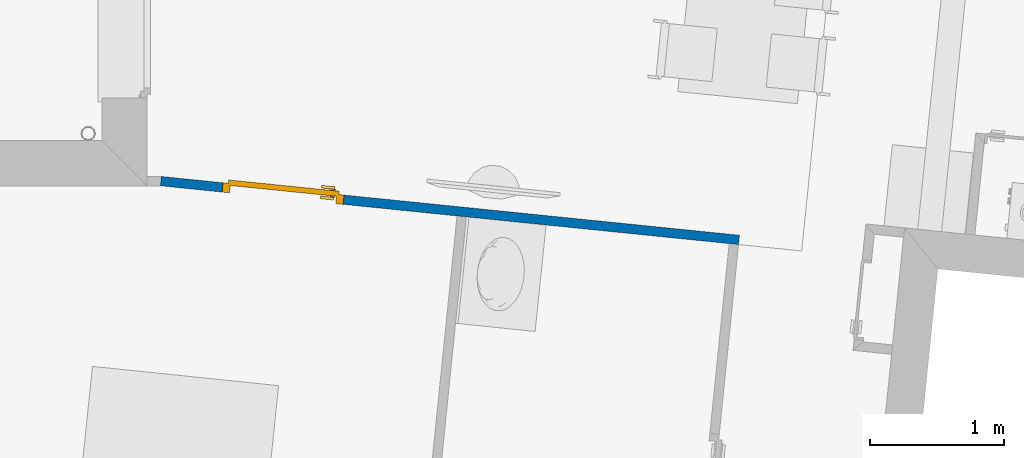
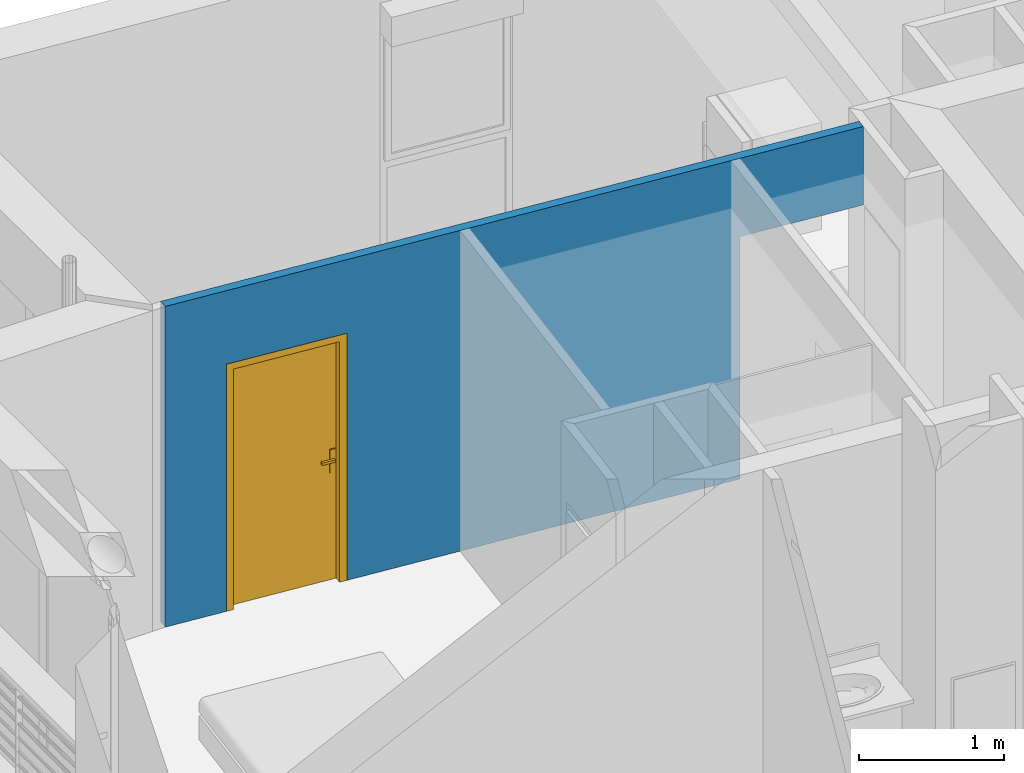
# One storey, part 63 of 164: 1 door, 1 wall, 2 openings.
"""IFC2X3 building model written with IfcOpenShell, lengths in millimetres."""

from ifc_helpers import new_model, entity, si_unit, converted_unit, derived_unit, money_unit, direction, frame, origin_with_axes, origin_2d_with_axis, place, context, subcontext, project, spatial, polyline, rectangle, outline, extrude, faceted_brep, source, transform, mapped, material, layer, layer_set, layer_usage, type_object, element, fill, save


model = new_model("IFC2X3")

# Units and contexts
model_context = context("Model", 3, precision=0.01, world=origin_with_axes(), true_north=direction((0.0, 1.0)))
body_context = subcontext(model_context, "Body", "Model", "MODEL_VIEW")
ifc_project = project(units=[si_unit("LENGTHUNIT", "METRE", prefix="MILLI"), si_unit("AREAUNIT", "SQUARE_METRE"), si_unit("VOLUMEUNIT", "CUBIC_METRE"), converted_unit("PLANEANGLEUNIT", "DEGREE", entity("IfcPlaneAngleMeasure", 0.0174532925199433), si_unit("PLANEANGLEUNIT", "RADIAN"), dimensions=[0, 0, 0, 0, 0, 0, 0]), money_unit("USD"), converted_unit("TIMEUNIT", "Year", entity("IfcTimeMeasure", 31557600.0), si_unit("TIMEUNIT", "SECOND"), dimensions=[0, 0, 1, 0, 0, 0, 0]), si_unit("MASSUNIT", "GRAM", prefix="KILO"), si_unit("THERMODYNAMICTEMPERATUREUNIT", "DEGREE_CELSIUS"), si_unit("LUMINOUSINTENSITYUNIT", "LUMEN"), si_unit("ENERGYUNIT", "JOULE", prefix="MEGA"), derived_unit("THERMALCONDUCTANCEUNIT", [(si_unit("POWERUNIT", "WATT"), 1), (si_unit("LENGTHUNIT", "METRE"), -1), (si_unit("THERMODYNAMICTEMPERATUREUNIT", "KELVIN"), -1)]), derived_unit("SPECIFICHEATCAPACITYUNIT", [(si_unit("ENERGYUNIT", "JOULE"), 1), (si_unit("MASSUNIT", "GRAM", prefix="KILO"), -1), (si_unit("THERMODYNAMICTEMPERATUREUNIT", "KELVIN"), -1)]), derived_unit("MASSDENSITYUNIT", [(si_unit("MASSUNIT", "GRAM", prefix="KILO"), 1), (si_unit("VOLUMEUNIT", "CUBIC_METRE"), -1)])], contexts=[model_context])

# Site, building, storey
site_placement = place(None, origin_with_axes())
site = spatial("IfcSite", under=ifc_project, at=site_placement, Name="Site", CompositionType="ELEMENT")
building_placement = place(site_placement, origin_with_axes())
building = spatial("IfcBuilding", under=site, at=building_placement, Name="Bâtiment", CompositionType="ELEMENT")
storey_placement = place(building_placement, frame((0.0, 0.0, 5750.0), z_axis=(0.0, 0.0, 1.0), x_axis=(1.0, 0.0, 0.0)))
storey = spatial("IfcBuildingStorey", under=building, at=storey_placement, Name="Etage1", CompositionType="ELEMENT", Elevation=5750.0)

# Wall, openings, door
ifc_material = material(Name="Hachure solide 268963992")
ifc_layer = layer(ifc_material, 70.0, ventilated="UNKNOWN")
ifc_layer_set = layer_set([ifc_layer], Name="Cloison 70 0826278243")
ifc_layer_usage = layer_usage(ifc_layer_set, "AXIS2", "NEGATIVE", 70.0)
wall_type = type_object("IfcWallType", Name="Cloison 70 0826278243 70", PredefinedType="NOTDEFINED")
wall_placement = place(storey_placement, frame((2218574.233344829, -607507.3879007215, 0.0), z_axis=(0.0, 0.0, 1.0), x_axis=(0.9948759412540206, -0.101103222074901, 0.0)))
wall = element("IfcWallStandardCase", 1, at=wall_placement, inside=storey, type_object=wall_type, material=ifc_layer_usage, Name="Mur-149", context=body_context, shape_type="SweptSolid", body=[
    extrude(outline(polyline([(1.13686837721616e-10, 0.0), (5278.749094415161, 0.0), (5278.756607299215, 69.99999999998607), (-3.547702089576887, 69.99999999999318), (1.13686837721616e-10, 0.0)])), origin_with_axes(), (0.0, 0.0, 1.0), 2700.0),
])
opening_1_placement = place(wall_placement, frame((917.6624685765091, 0.0, 0.0), z_axis=(0.0, 0.0, 1.0), x_axis=(1.0, 0.0, 0.0)))
opening_1 = element("IfcOpeningElement", 2, at=opening_1_placement, cuts=wall, Name="Por-284", context=body_context, shape_type="SweptSolid", body=[
    extrude(rectangle(XDim=910.0, YDim=2080.0, at=origin_2d_with_axis()), frame((0.0, -70.00000000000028, 1040.0), z_axis=(0.0, -1.0, 0.0), x_axis=(-1.0, 0.0, 0.0)), (0.0, 0.0, -1.0), 140.0),
])
opening_2_placement = place(wall_placement, frame((4812.549061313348, 0.0, 0.0), z_axis=(0.0, 0.0, 1.0), x_axis=(1.0, 0.0, 0.0)))
element("IfcOpeningElement", 3, at=opening_2_placement, cuts=wall, Name="Por-287", context=body_context, shape_type="SweptSolid", body=[
    extrude(rectangle(XDim=932.415091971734, YDim=2040.0, at=origin_2d_with_axis()), frame((1.13686837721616e-10, 0.0, 1020.0), z_axis=(0.0, 1.0, 0.0), x_axis=(1.0, 0.0, 0.0)), (0.0, 0.0, -1.0), 70.0),
    extrude(rectangle(XDim=932.415091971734, YDim=2040.0, at=origin_2d_with_axis()), frame((1.13686837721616e-10, 0.0, 1020.0), z_axis=(0.0, -1.0, 0.0), x_axis=(1.0, 0.0, 0.0)), (0.0, 0.0, -1.0), 70.0),
])
door_style = type_object("IfcDoorStyle", Name="Porte_1v", ConstructionType="NOTDEFINED", OperationType="NOTDEFINED", ParameterTakesPrecedence=False, Sizeable=False)
shared_shape = source(origin_with_axes(), body_context, "Body", "Brep", [
    faceted_brep([(-454.9999999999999, 0.0, 0.0), (-454.9999999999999, 0.0, 2080.0), (454.9999999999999, 0.0, 2080.0), (454.9999999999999, 0.0, 0.0), (414.9999999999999, 0.0, 0.0), (414.9999999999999, 0.0, 2040.0), (-414.9999999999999, 0.0, 2040.0), (-414.9999999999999, 0.0, 0.0), (-454.9999999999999, -69.99999999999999, 0.0), (-454.9999999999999, -69.99999999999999, 2080.0), (454.9999999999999, -69.99999999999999, 2080.0), (454.9999999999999, -69.99999999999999, 0.0), (399.9999999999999, -69.99999999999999, 0.0), (399.9999999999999, -15.0, 0.0), (414.9999999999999, -15.0, 0.0), (414.9999999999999, -15.0, 2040.0), (-414.9999999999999, -14.99999999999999, 2040.0), (-414.9999999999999, -14.99999999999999, 0.0), (-399.9999999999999, -14.99999999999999, 0.0), (-399.9999999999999, -69.99999999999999, 0.0), (-399.9999999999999, -69.99999999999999, 2025.0), (399.9999999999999, -69.99999999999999, 2025.0), (399.9999999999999, -15.0, 2025.0), (-399.9999999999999, -14.99999999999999, 2025.0)], [[[0, 1, 2, 3, 4, 5, 6, 7]], [[8, 9, 1, 0]], [[9, 10, 2, 1]], [[10, 11, 3, 2]], [[3, 11, 12, 13, 14, 4]], [[5, 4, 14, 15]], [[6, 5, 15, 16]], [[7, 6, 16, 17]], [[0, 7, 17, 18, 19, 8]], [[19, 20, 21, 12, 11, 10, 9, 8]], [[22, 13, 12, 21]], [[17, 16, 15, 14, 13, 22, 23, 18]], [[18, 23, 20, 19]], [[23, 22, 21, 20]]]),
    faceted_brep([(350.0, -15.0, 900.0), (350.0, -15.0, 1100.0), (389.9999999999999, -15.0, 1100.0), (389.9999999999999, -15.0, 900.0), (350.0, -25.0, 900.0), (350.0, -25.0, 1100.0), (389.9999999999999, -25.0, 1100.0), (389.9999999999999, -25.0, 900.0)], [[[0, 1, 2, 3]], [[0, 4, 5, 1]], [[1, 5, 6, 2]], [[2, 6, 7, 3]], [[3, 7, 4, 0]], [[7, 6, 5, 4]]]),
    faceted_brep([(279.9999999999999, -25.0, 1000.0), (279.9999999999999, -25.0, 1020.0), (379.9999999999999, -25.0, 1020.0), (379.9999999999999, -25.0, 1000.0), (279.9999999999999, -45.0, 1000.0), (279.9999999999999, -45.0, 1020.0), (379.9999999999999, -45.0, 1020.0), (379.9999999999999, -45.0, 1000.0)], [[[0, 1, 2, 3]], [[0, 4, 5, 1]], [[1, 5, 6, 2]], [[2, 6, 7, 3]], [[3, 7, 4, 0]], [[7, 6, 5, 4]]]),
    faceted_brep([(350.0, 34.99999999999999, 900.0), (350.0, 34.99999999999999, 1100.0), (389.9999999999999, 34.99999999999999, 1100.0), (389.9999999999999, 34.99999999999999, 900.0), (350.0, 24.99999999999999, 900.0), (350.0, 24.99999999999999, 1100.0), (389.9999999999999, 24.99999999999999, 1100.0), (389.9999999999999, 24.99999999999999, 900.0)], [[[0, 1, 2, 3]], [[0, 4, 5, 1]], [[1, 5, 6, 2]], [[2, 6, 7, 3]], [[3, 7, 4, 0]], [[7, 6, 5, 4]]]),
    faceted_brep([(279.9999999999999, 54.99999999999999, 1000.0), (279.9999999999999, 54.99999999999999, 1020.0), (379.9999999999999, 54.99999999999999, 1020.0), (379.9999999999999, 54.99999999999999, 1000.0), (279.9999999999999, 34.99999999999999, 1000.0), (279.9999999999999, 34.99999999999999, 1020.0), (379.9999999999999, 34.99999999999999, 1020.0), (379.9999999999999, 34.99999999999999, 1000.0)], [[[0, 1, 2, 3]], [[0, 4, 5, 1]], [[1, 5, 6, 2]], [[2, 6, 7, 3]], [[3, 7, 4, 0]], [[7, 6, 5, 4]]]),
    faceted_brep([(414.9999999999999, 24.99999999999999, 0.0), (414.9999999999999, -15.0, 0.0), (-414.9999999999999, -14.99999999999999, 0.0), (-414.9999999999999, 25.0, 0.0), (414.9999999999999, 24.99999999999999, 2040.0), (414.9999999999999, -15.0, 2040.0), (-414.9999999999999, -14.99999999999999, 2040.0), (-414.9999999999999, 25.0, 2040.0)], [[[0, 1, 2, 3]], [[4, 5, 1, 0]], [[1, 5, 6, 2]], [[3, 2, 6, 7]], [[0, 3, 7, 4]], [[7, 6, 5, 4]]]),
])
door_placement = place(opening_1_placement, frame((-414.9999999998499, 0.0, 0.0), z_axis=(0.0, 0.0, 1.0), x_axis=(1.0, 0.0, 0.0)))
door = element("IfcDoor", 4, at=door_placement, inside=storey, type_object=door_style, Name="Por-284", OverallHeight=2040.0, OverallWidth=830.0, context=body_context, shape_type="MappedRepresentation", body=[
    mapped(shared_shape, transform((414.9999999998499, 70.00000000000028, 0.0))),
])
fill(opening_1, door)

save(model, "model.ifc")
